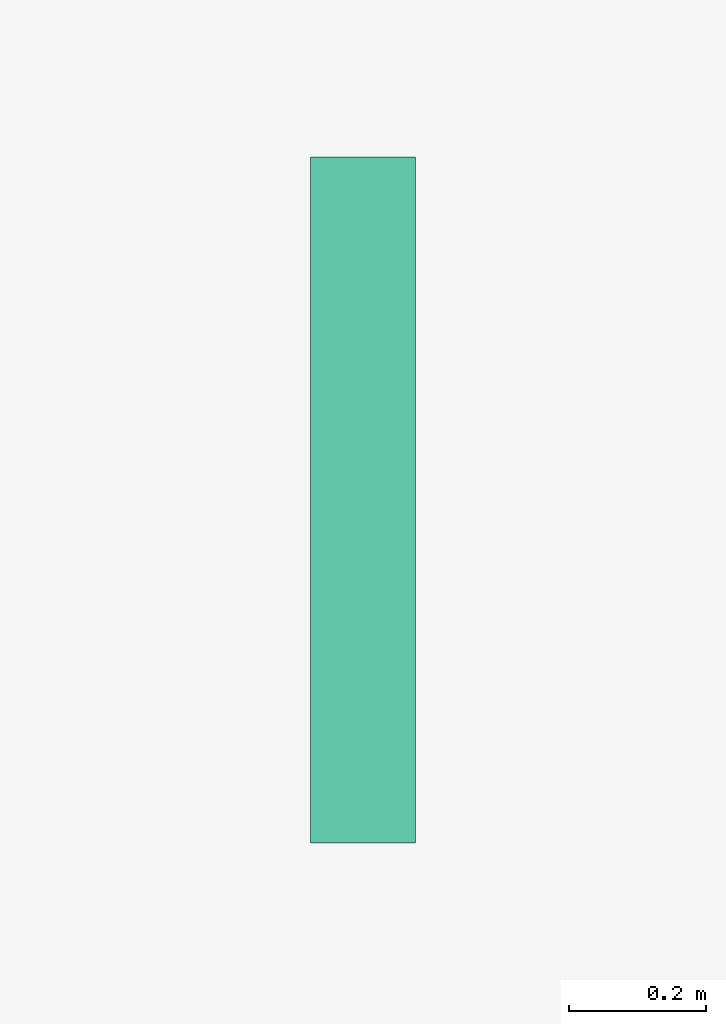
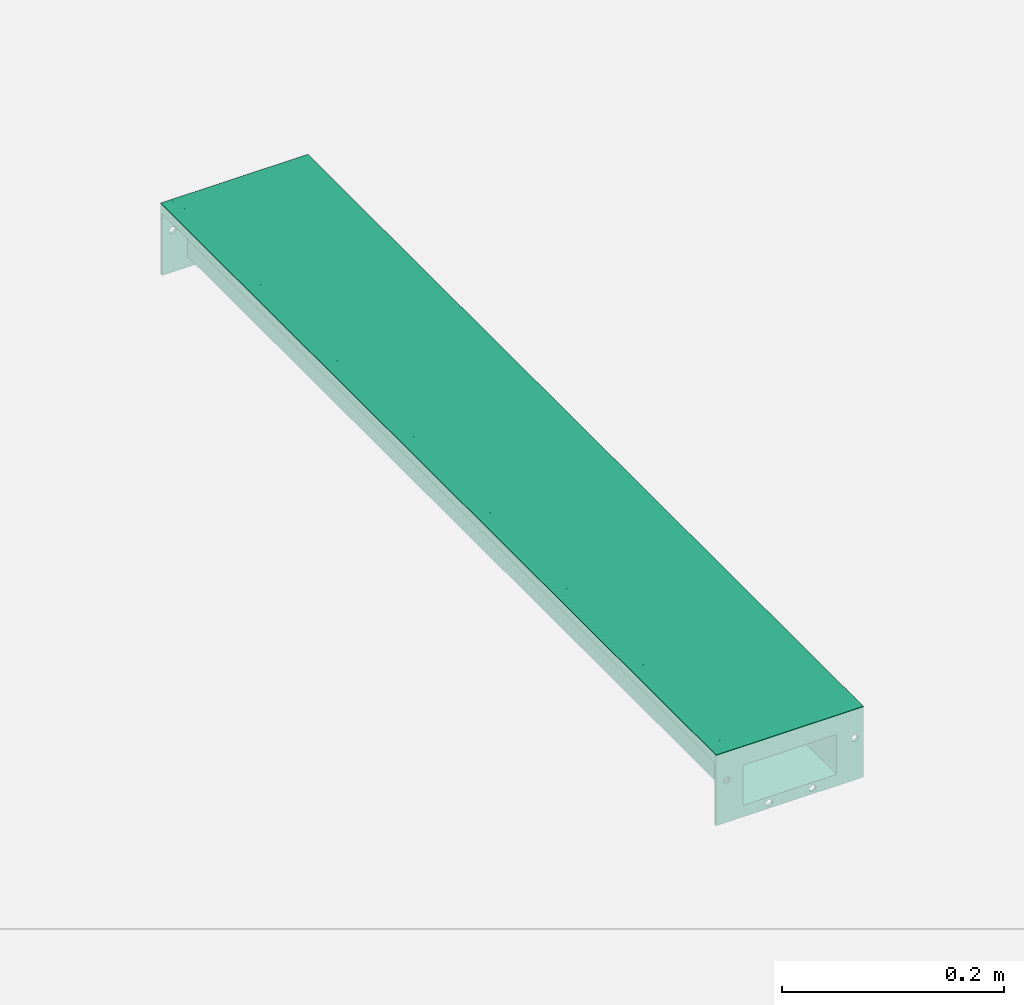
# One storey, part 2 of 2: 1 flow terminal.
"""IFC2X3 building model written with IfcOpenShell, lengths in millimetres."""

from ifc_helpers import new_model, entity, si_unit, converted_unit, direction, frame, frame_2d, origin, origin_2d_with_axis, place, context, subcontext, project, spatial, polyline, circle_curve, parameter, trimmed, segment, composite_curve, rectangle, outline, extrude, source, transform, mapped, material, material_list, element, save


model = new_model("IFC2X3")

# Units and contexts
model_context = context("Model", 3, precision=1e-06, world=origin(), true_north=direction((2.0, 6.12303176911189e-17, 1.0)))
context_of_model = context(None, 3, precision=1e-06, world=origin(), true_north=direction((2.0, 6.12303176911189e-17, 1.0)))
body_context = subcontext(model_context, "Body", "Model", "MODEL_VIEW")
ifc_project = project(units=[si_unit("LENGTHUNIT", "METRE", prefix="MILLI"), si_unit("AREAUNIT", "SQUARE_METRE", prefix="MILLI"), si_unit("VOLUMEUNIT", "CUBIC_METRE", prefix="MILLI"), converted_unit("PLANEANGLEUNIT", "DEGREE", entity("IfcRatioMeasure", 0.0174532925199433), si_unit("PLANEANGLEUNIT", "RADIAN"), dimensions=[0, 0, 0, 0, 0, 0, 0]), si_unit("TIMEUNIT", "SECOND")], contexts=[model_context, context_of_model])

# Site, building, storey
site_placement = place(None, origin())
site = spatial("IfcSite", under=ifc_project, at=site_placement, Name="Default", CompositionType="ELEMENT")
building_placement = place(site_placement, origin())
building = spatial("IfcBuilding", under=site, at=building_placement, CompositionType="ELEMENT")
storey_placement = place(building_placement, origin())
storey = spatial("IfcBuildingStorey", under=building, at=storey_placement, Name="Level 1", CompositionType="ELEMENT", Elevation=0.0)

# Flow terminal
ifc_material_1 = material(Name="Stainless Steel AISI 304")
ifc_material_2 = material(Name="Polystyrene, High Impact (F)")
ifc_material_list = material_list([ifc_material_1, ifc_material_2])
shared_shape = source(origin(), body_context, "Body", "SweptSolid", [
    extrude(rectangle(XDim=1000.0, YDim=124.999917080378, at=origin_2d_with_axis()), frame((4.14598109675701e-05, 500.0, -21.0), z_axis=(0.0, 0.0, 1.0), x_axis=(0.0, 1.0, 0.0)), (0.0, 0.0, 1.0), 20.9999999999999),
    extrude(outline(polyline([(-76.5000276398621, -30.8000000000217), (-62.4999447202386, -30.8000000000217), (-62.4999447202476, -9.80000000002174), (-48.4999447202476, -9.80000000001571), (-48.4999447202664, 34.1999999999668), (48.4999723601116, 34.2000000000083), (48.4999723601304, -9.79999999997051), (62.4999723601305, -9.79999999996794), (62.4999723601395, -30.7999999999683), (76.4999723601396, -30.7999999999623), (76.4999723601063, 47.0), (-76.5000276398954, 47.0), (-76.5000276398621, -30.8000000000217)]), holes=[composite_curve([segment(trimmed(circle_curve(frame_2d((67.7349848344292, 1.09857254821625), x_axis=(1.0, 0.0)), 3.5), [parameter(0.0)], [parameter(180.0)], True, "PARAMETER"), False, "CONTINUOUS"), segment(trimmed(circle_curve(frame_2d((67.7349848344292, 1.09857254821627), x_axis=(1.0, 0.0)), 3.5), [parameter(180.0)], [parameter(360.0)], True, "PARAMETER"), False, "CONTINUOUS")], self_intersect=False), composite_curve([segment(trimmed(circle_curve(frame_2d((23.7349848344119, 40.9218749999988), x_axis=(1.0, 0.0)), 3.5), [parameter(0.0)], [parameter(180.0)], True, "PARAMETER"), False, "CONTINUOUS"), segment(trimmed(circle_curve(frame_2d((23.7349848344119, 40.9218749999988), x_axis=(1.0, 0.0)), 3.5), [parameter(180.0)], [parameter(360.0)], True, "PARAMETER"), False, "CONTINUOUS")], self_intersect=False), composite_curve([segment(trimmed(circle_curve(frame_2d((-21.2650151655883, 40.9218749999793), x_axis=(1.0, 0.0)), 3.5), [parameter(179.999999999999)], [parameter(360.0)], True, "PARAMETER"), False, "CONTINUOUS"), segment(trimmed(circle_curve(frame_2d((-21.2650151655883, 40.9218749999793), x_axis=(1.0, 0.0)), 3.5), [parameter(360.0)], [parameter(180.0)], True, "PARAMETER"), False, "CONTINUOUS")], self_intersect=False), composite_curve([segment(trimmed(circle_curve(frame_2d((-65.2650151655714, 1.09857254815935), x_axis=(1.0, 0.0)), 3.5), [parameter(179.999999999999)], [parameter(360.0)], True, "PARAMETER"), False, "CONTINUOUS"), segment(trimmed(circle_curve(frame_2d((-65.2650151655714, 1.09857254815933), x_axis=(1.0, 0.0)), 3.5), [parameter(0.0)], [parameter(180.0)], True, "PARAMETER"), False, "CONTINUOUS")], self_intersect=False)]), frame((2.7639875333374e-05, 997.0, -30.8000000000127), z_axis=(0.0, 1.0, 0.0), x_axis=(1.0, 0.0, 0.0)), (0.0, 0.0, 1.0), 2.99999999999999),
    extrude(outline(polyline([(-76.4999585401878, -30.80000137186), (-62.4999585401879, -30.80000137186), (-62.4999585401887, -9.80000137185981), (-48.4999585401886, -9.80000137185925), (-48.4999585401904, 34.1999986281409), (48.4999585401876, 34.1999986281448), (48.4999585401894, -9.80000137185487), (62.4999585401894, -9.80000137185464), (62.4999585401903, -30.800001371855), (76.4999585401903, -30.8000013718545), (76.4999585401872, 47.0000068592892), (-76.4999585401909, 47.0000068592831), (-76.4999585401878, -30.80000137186)]), holes=[composite_curve([segment(trimmed(circle_curve(frame_2d((67.7349710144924, 1.0985711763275), x_axis=(1.0, 0.0)), 3.5), [parameter(0.0)], [parameter(180.0)], True, "PARAMETER"), False, "CONTINUOUS"), segment(trimmed(circle_curve(frame_2d((67.7349710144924, 1.09857117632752), x_axis=(1.0, 0.0)), 3.5), [parameter(180.0)], [parameter(0.0)], True, "PARAMETER"), False, "CONTINUOUS")], self_intersect=False), composite_curve([segment(trimmed(circle_curve(frame_2d((23.7349710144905, 40.9218818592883), x_axis=(1.0, 0.0)), 3.5), [parameter(0.0)], [parameter(180.0)], True, "PARAMETER"), False, "CONTINUOUS"), segment(trimmed(circle_curve(frame_2d((23.7349710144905, 40.9218818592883), x_axis=(1.0, 0.0)), 3.5), [parameter(180.0)], [parameter(0.0)], True, "PARAMETER"), False, "CONTINUOUS")], self_intersect=False), composite_curve([segment(trimmed(circle_curve(frame_2d((-21.2650289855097, 40.9218818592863), x_axis=(1.0, 0.0)), 3.5), [parameter(180.0)], [parameter(360.0)], True, "PARAMETER"), False, "CONTINUOUS"), segment(trimmed(circle_curve(frame_2d((-21.2650289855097, 40.9218818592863), x_axis=(1.0, 0.0)), 3.5), [parameter(360.0)], [parameter(180.0)], True, "PARAMETER"), False, "CONTINUOUS")], self_intersect=False), composite_curve([segment(trimmed(circle_curve(frame_2d((-65.2650289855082, 1.09857117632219), x_axis=(1.0, 0.0)), 3.5), [parameter(180.0)], [parameter(0.0)], True, "PARAMETER"), False, "CONTINUOUS"), segment(trimmed(circle_curve(frame_2d((-65.2650289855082, 1.09857117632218), x_axis=(1.0, 0.0)), 3.5), [parameter(0.0)], [parameter(180.0)], True, "PARAMETER"), False, "CONTINUOUS")], self_intersect=False)]), frame((4.14598109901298e-05, 0.0, -30.8000013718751), z_axis=(0.0, 1.0, 0.0), x_axis=(1.0, 0.0, 0.0)), (0.0, 0.0, 1.0), 3.0),
    extrude(outline(polyline([(-20.1243423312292, -62.4999585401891), (-20.1243423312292, -76.499958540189), (-10.1243423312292, -76.499958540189), (-10.1243423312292, -74.999958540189), (-18.6243423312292, -74.999958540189), (-18.6243423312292, -63.9999585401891), (2.3756576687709, -63.9999585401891), (2.37565766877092, -49.999958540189), (46.3717116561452, -49.999958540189), (46.3717116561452, 49.999958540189), (2.37565766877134, 49.999958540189), (2.37565766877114, 63.999958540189), (-18.624342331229, 63.9999585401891), (-18.6243423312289, 74.9999585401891), (-10.1243423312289, 74.9999585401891), (-10.1243423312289, 76.4999585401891), (-20.1243423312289, 76.4999585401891), (-20.124342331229, 62.4999585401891), (0.875657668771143, 62.499958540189), (0.875657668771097, 48.499958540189), (44.8717116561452, 48.499958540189), (44.8717116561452, -48.499958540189), (0.875657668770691, -48.499958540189), (0.875657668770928, -62.4999585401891), (-20.1243423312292, -62.4999585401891)])), frame((4.14598110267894e-05, 3.0, -20.1282883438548), z_axis=(0.0, -1.0, 0.0), x_axis=(0.0, 0.0, -1.0)), (0.0, 0.0, -1.0), 994.0),
    extrude(rectangle(XDim=997.0, YDim=11.0, at=frame_2d((8.5265128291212e-14, 0.0), x_axis=(1.0, 0.0))), frame((69.5000000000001, 501.5, -10.0), z_axis=(0.0, 0.0, 1.0), x_axis=(0.0, 1.0, 0.0)), (0.0, 0.0, 1.0), 8.50000000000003),
    extrude(rectangle(XDim=997.0, YDim=10.9999999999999, at=frame_2d((8.5265128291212e-14, 0.0), x_axis=(1.0, 0.0))), frame((-69.499917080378, 501.5, -10.0), z_axis=(0.0, 0.0, 1.0), x_axis=(0.0, 1.0, 0.0)), (0.0, 0.0, 1.0), 8.50000000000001),
])
flow_terminal_placement = place(storey_placement, frame((-88.2515443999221, -389.522595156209, 0.0)))
element("IfcFlowTerminal", 1, at=flow_terminal_placement, inside=storey, material=ifc_material_list, Name="ACO BD Modular 125 Level Invert Straight Channels:105128 - Straight Channel - 1000mm LG - Invert Depth  65mm:105128 - Straight Channel - 1000mm LG - Invert Depth  65mm", ObjectType="105128 - Straight Channel - 1000mm LG - Invert Depth  65mm", context=body_context, shape_type="MappedRepresentation", body=[
    mapped(shared_shape, transform((0.0, 0.0, 0.0), scale=1.0)),
])

save(model, "model.ifc")
